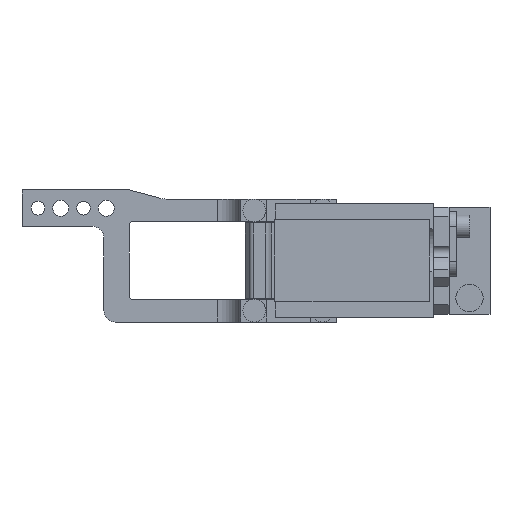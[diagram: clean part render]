
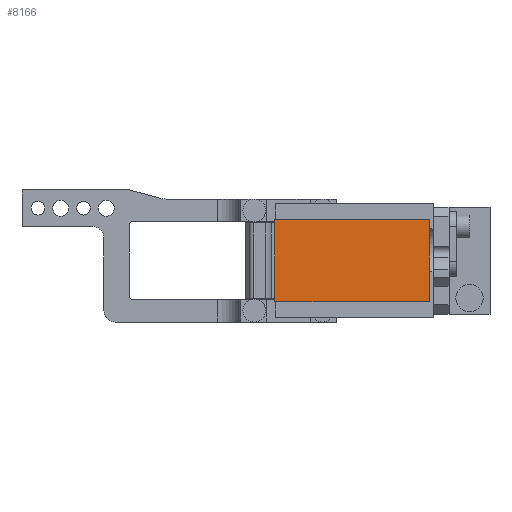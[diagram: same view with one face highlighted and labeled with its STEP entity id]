
A CAD part, front view. The second image highlights one B-rep face of the part: STEP entity #8166.
In plain terms, the highlighted planar face has unit normal (0, -1, 0).
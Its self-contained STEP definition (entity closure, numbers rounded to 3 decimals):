
#592 = ORIENTED_EDGE ( 'NONE', *, *, #12738, .T. ) ;
#699 = DIRECTION ( 'NONE',  ( 0., -1., 0. ) ) ;
#769 = DIRECTION ( 'NONE',  ( 0., 0., -1. ) ) ;
#940 = DIRECTION ( 'NONE',  ( 0., 0., 1. ) ) ;
#951 = LINE ( 'NONE', #10930, #4706 ) ;
#1134 = VERTEX_POINT ( 'NONE', #6630 ) ;
#1879 = DIRECTION ( 'NONE',  ( 0., 0., -1. ) ) ;
#2260 = VERTEX_POINT ( 'NONE', #10838 ) ;
#2266 = LINE ( 'NONE', #8927, #12902 ) ;
#2483 = CARTESIAN_POINT ( 'NONE',  ( 62., -233., -18. ) ) ;
#2660 = VERTEX_POINT ( 'NONE', #12839 ) ;
#3490 = DIRECTION ( 'NONE',  ( -1., 0., 0. ) ) ;
#3563 = CARTESIAN_POINT ( 'NONE',  ( -6., -233., 18. ) ) ;
#4057 = VECTOR ( 'NONE', #940, 1000. ) ;
#4706 = VECTOR ( 'NONE', #1879, 1000. ) ;
#5114 = LINE ( 'NONE', #3563, #10995 ) ;
#5179 = CARTESIAN_POINT ( 'NONE',  ( 0., -233., 0. ) ) ;
#5557 = EDGE_CURVE ( 'NONE', #8790, #1134, #10775, .T. ) ;
#6190 = PLANE ( 'NONE',  #14247 ) ;
#6321 = EDGE_CURVE ( 'NONE', #2260, #2660, #951, .T. ) ;
#6630 = CARTESIAN_POINT ( 'NONE',  ( 62., -233., 18. ) ) ;
#7428 = FACE_OUTER_BOUND ( 'NONE', #8290, .T. ) ;
#8166 = ADVANCED_FACE ( 'NONE', ( #7428 ), #6190, .T. ) ;
#8290 = EDGE_LOOP ( 'NONE', ( #14108, #592, #11278, #11627 ) ) ;
#8790 = VERTEX_POINT ( 'NONE', #2483 ) ;
#8927 = CARTESIAN_POINT ( 'NONE',  ( -6., -233., -18. ) ) ;
#10775 = LINE ( 'NONE', #13004, #4057 ) ;
#10838 = CARTESIAN_POINT ( 'NONE',  ( -6., -233., 18. ) ) ;
#10930 = CARTESIAN_POINT ( 'NONE',  ( -6., -233., 18. ) ) ;
#10995 = VECTOR ( 'NONE', #3490, 1000. ) ;
#11278 = ORIENTED_EDGE ( 'NONE', *, *, #5557, .T. ) ;
#11627 = ORIENTED_EDGE ( 'NONE', *, *, #13968, .T. ) ;
#12738 = EDGE_CURVE ( 'NONE', #2660, #8790, #2266, .T. ) ;
#12839 = CARTESIAN_POINT ( 'NONE',  ( -6., -233., -18. ) ) ;
#12902 = VECTOR ( 'NONE', #13325, 1000. ) ;
#13004 = CARTESIAN_POINT ( 'NONE',  ( 62., -233., 18. ) ) ;
#13325 = DIRECTION ( 'NONE',  ( 1., 0., 0. ) ) ;
#13968 = EDGE_CURVE ( 'NONE', #1134, #2260, #5114, .T. ) ;
#14108 = ORIENTED_EDGE ( 'NONE', *, *, #6321, .T. ) ;
#14247 = AXIS2_PLACEMENT_3D ( 'NONE', #5179, #699, #769 ) ;
